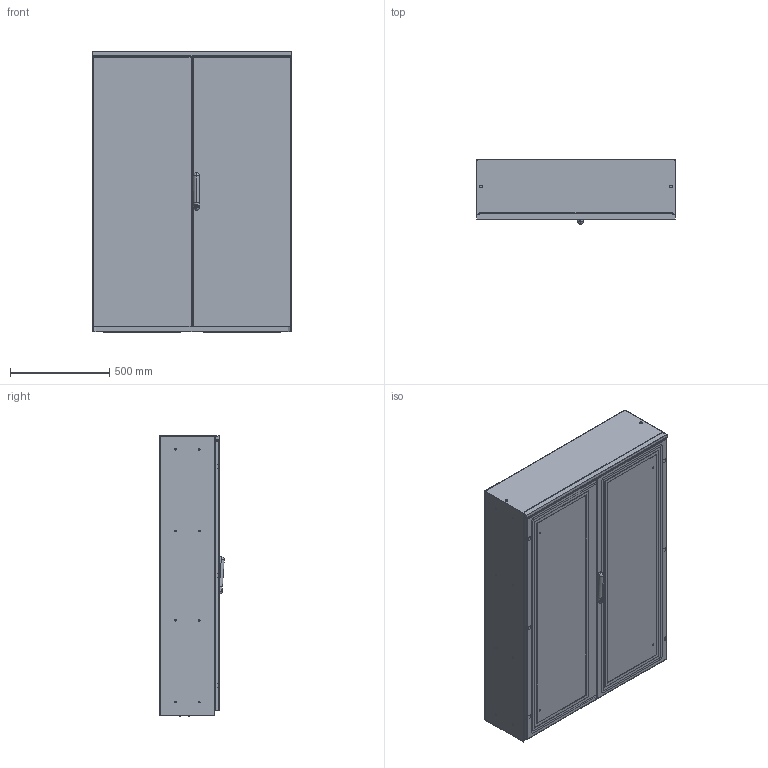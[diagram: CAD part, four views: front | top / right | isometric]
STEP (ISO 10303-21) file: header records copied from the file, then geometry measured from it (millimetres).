
FILE_DESCRIPTION (( 'STEP AP203' ), '1' );
FILE_NAME ('ECOMP10-1430X.STEP', '2021-03-16T07:37:36', ( '' ), ( '' ), 'SwSTEP 2.0', 'SolidWorks 2019', '' );
FILE_SCHEMA (( 'CONFIG_CONTROL_DESIGN' ));
Length unit declared in the file: millimetre
Products named in the file (11): AR_ECOMP_inox_inserto_maniglia_Doppia_aletta; AR_ECOMP_inox_tegolino_0500x0100; AR_ECOMP_inox_Porta_CB_1.5_1000x1400_ANT_DX; AR_ECOMP_inox_struttura_1000x1400x0300; AR_ECOMP_inox_montaggio_porta_IB_1.5_1000x1400_ANT DX; AR_ECOMP_inox_piastra_interna_1000x1400; AR_ECOMP_inox_assieme_maniglia; AR_ECOMP_inox_Porta_IB_1.5_1000x1400_ANT; AR_ECOMP_inox_tegolino_0500x0050; ECOMP10-1430X; AR_ECOMP_inox_maniglia
Assembly tree (12 placements, depth 4):
  ECOMP10-1430X
    AR_ECOMP_inox_struttura_1000x1400x0300
    AR_ECOMP_inox_montaggio_porta_IB_1.5_1000x1400_ANT DX
      AR_ECOMP_inox_Porta_IB_1.5_1000x1400_ANT
      AR_ECOMP_inox_assieme_maniglia
        AR_ECOMP_inox_maniglia
        AR_ECOMP_inox_inserto_maniglia_Doppia_aletta
    AR_ECOMP_inox_Porta_CB_1.5_1000x1400_ANT_DX
    AR_ECOMP_inox_piastra_interna_1000x1400
    AR_ECOMP_inox_tegolino_0500x0050  x2
    AR_ECOMP_inox_tegolino_0500x0100  x2
Bounding box: 1000 x 323.98 x 1411.48 mm (x, y, z)
Volume: 11381857.7 mm3; surface area: 13226798.5 mm2
Topology: 10 solids, 10 shells, 1900 faces, 5087 edges, 3270 vertices
Faces by surface type: cylinder 965, plane 886, torus 16, bspline 15, sphere 14, cone 4
Entity records: 59887 total; most frequent: CARTESIAN_POINT 11560, DIRECTION 10118, ORIENTED_EDGE 9554, EDGE_CURVE 4777, AXIS2_PLACEMENT_3D 3653, VERTEX_POINT 3110, VECTOR 2812, LINE 2812
